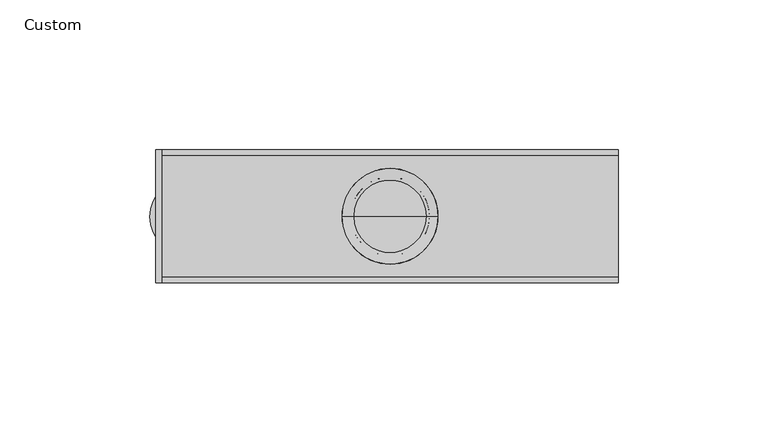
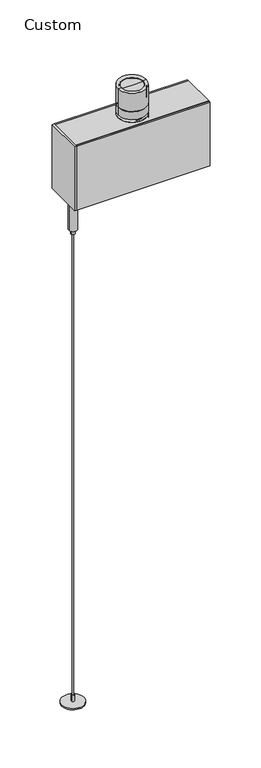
"""IFC4 building model written with IfcOpenShell, lengths in millimetres: light fixture geometry, Lighting-Pendant-Axis-Sculpt-Linear-Accent : Custom."""

from ifc_helpers import new_model, si_unit, point, frame, frame_2d, origin, origin_with_axes, place, context, project, spatial, polyline, circle_curve, ellipse_curve, trimmed, segment, composite_curve, outline, extrude, source, transform, mapped, element, save
from ifc_brep_helpers import plane_surface, cylinder_surface, revolved_surface, advanced_brep


def custom_45ceae2b(model_context):
    return source(origin(), model_context, "Body", "SolidModel", [
        advanced_brep(
        [(-12.1749998, 0.0, 720.9971034), (12.1749998, 0.0, 720.9971034), (15.9999994, 0.0, 721.52002), (-15.9999994, 0.0, 721.52002), (-12.1749998, 0.0, 720.2033534), (12.1749998, 0.0, 720.2033534), (-14.0, 0.0, 720.2033534), (14.0, 0.0, 720.2033534), (-14.0, 0.0, 705.9033531), (14.0, 0.0, 705.9033531), (-12.4999997, 0.0, 705.9033531), (12.4999997, 0.0, 705.9033531), (-12.4999997, 0.0, 707.5033531), (12.4999997, 0.0, 707.5033531), (0.0, 0.0, 707.5033531), (-15.9999994, 0.0, 689.9033527), (15.9999994, 0.0, 689.9033527), (0.0, 0.0, 689.9033527), (-15.9999994, 0.0, 698.9033533), (15.9999994, 0.0, 698.9033533), (-15.2062494, 0.0, 698.9033533), (15.2062494, 0.0, 698.9033533), (-15.2062494, 0.0, 699.6971033), (15.2062494, 0.0, 699.6971033), (-15.9999994, 0.0, 699.6971033), (15.9999994, 0.0, 699.6971033)],
        [
            (0, 1, circle_curve(frame((0.0, 0.0, 720.9971034), z_axis=(0.0, 0.0, -1.0), x_axis=(1.0, 0.0, 0.0)), 12.1749998)),
            (1, 2),
            (2, 3, circle_curve(frame((0.0, 0.0, 721.52002), z_axis=(0.0, 0.0, 1.0), x_axis=(1.0, 0.0, 0.0)), 15.9999994)),
            (3, 0),
            (1, 0, circle_curve(frame((0.0, 0.0, 720.9971034), z_axis=(0.0, 0.0, -1.0), x_axis=(1.0, 0.0, 0.0)), 12.1749998)),
            (3, 2, circle_curve(frame((0.0, 0.0, 721.52002), z_axis=(0.0, 0.0, 1.0), x_axis=(1.0, 0.0, 0.0)), 15.9999994)),
            (4, 5, circle_curve(frame((0.0, 0.0, 720.2033534), z_axis=(0.0, 0.0, -1.0), x_axis=(1.0, 0.0, 0.0)), 12.1749998)),
            (5, 1),
            (0, 4),
            (5, 4, circle_curve(frame((0.0, 0.0, 720.2033534), z_axis=(0.0, 0.0, -1.0), x_axis=(1.0, 0.0, 0.0)), 12.1749998)),
            (6, 7, circle_curve(frame((0.0, 0.0, 720.2033534), z_axis=(0.0, 0.0, -1.0), x_axis=(1.0, 0.0, 0.0)), 14.0)),
            (7, 5),
            (4, 6),
            (7, 6, circle_curve(frame((0.0, 0.0, 720.2033534), z_axis=(0.0, 0.0, -1.0), x_axis=(1.0, 0.0, 0.0)), 14.0)),
            (8, 9, circle_curve(frame((0.0, 0.0, 705.9033531), z_axis=(0.0, 0.0, -1.0), x_axis=(1.0, 0.0, 0.0)), 14.0)),
            (9, 7),
            (6, 8),
            (9, 8, circle_curve(frame((0.0, 0.0, 705.9033531), z_axis=(0.0, 0.0, -1.0), x_axis=(1.0, 0.0, 0.0)), 14.0)),
            (10, 11, circle_curve(frame((0.0, 0.0, 705.9033531), z_axis=(0.0, 0.0, -1.0), x_axis=(1.0, 0.0, 0.0)), 12.4999997)),
            (11, 9),
            (8, 10),
            (11, 10, circle_curve(frame((0.0, 0.0, 705.9033531), z_axis=(0.0, 0.0, -1.0), x_axis=(1.0, 0.0, 0.0)), 12.4999997)),
            (12, 13, circle_curve(frame((0.0, 0.0, 707.5033531), z_axis=(0.0, 0.0, -1.0), x_axis=(1.0, 0.0, 0.0)), 12.4999997)),
            (13, 11),
            (10, 12),
            (13, 12, circle_curve(frame((0.0, 0.0, 707.5033531), z_axis=(0.0, 0.0, -1.0), x_axis=(1.0, 0.0, 0.0)), 12.4999997)),
            (14, 13),
            (12, 14),
            (15, 16, circle_curve(frame((0.0, 0.0, 689.9033527), z_axis=(0.0, 0.0, -1.0), x_axis=(1.0, 0.0, 0.0)), 15.9999994)),
            (16, 17),
            (17, 15),
            (16, 15, circle_curve(frame((0.0, 0.0, 689.9033527), z_axis=(0.0, 0.0, -1.0), x_axis=(1.0, 0.0, 0.0)), 15.9999994)),
            (18, 19, circle_curve(frame((0.0, 0.0, 698.9033533), z_axis=(0.0, 0.0, -1.0), x_axis=(1.0, 0.0, 0.0)), 15.9999994)),
            (19, 16),
            (15, 18),
            (19, 18, circle_curve(frame((0.0, 0.0, 698.9033533), z_axis=(0.0, 0.0, -1.0), x_axis=(1.0, 0.0, 0.0)), 15.9999994)),
            (20, 21, circle_curve(frame((0.0, 0.0, 698.9033533), z_axis=(0.0, 0.0, -1.0), x_axis=(1.0, 0.0, 0.0)), 15.2062494)),
            (21, 19),
            (18, 20),
            (21, 20, circle_curve(frame((0.0, 0.0, 698.9033533), z_axis=(0.0, 0.0, -1.0), x_axis=(1.0, 0.0, 0.0)), 15.2062494)),
            (22, 23, circle_curve(frame((0.0, 0.0, 699.6971033), z_axis=(0.0, 0.0, -1.0), x_axis=(1.0, 0.0, 0.0)), 15.2062494)),
            (23, 21),
            (20, 22),
            (23, 22, circle_curve(frame((0.0, 0.0, 699.6971033), z_axis=(0.0, 0.0, -1.0), x_axis=(1.0, 0.0, 0.0)), 15.2062494)),
            (24, 25, circle_curve(frame((0.0, 0.0, 699.6971033), z_axis=(0.0, 0.0, -1.0), x_axis=(1.0, 0.0, 0.0)), 15.9999994)),
            (25, 23),
            (22, 24),
            (25, 24, circle_curve(frame((0.0, 0.0, 699.6971033), z_axis=(0.0, 0.0, -1.0), x_axis=(1.0, 0.0, 0.0)), 15.9999994)),
            (2, 25),
            (24, 3),
        ],
        [
            revolved_surface(polyline([(15.9999994, 0.0, 721.52002), (12.1749998, 0.0, 720.9971034)]), (0.0, 0.0, 2923.1350231), (0.0, 0.0, 1.0)),
            revolved_surface(polyline([(12.1749998, 0.0, 720.9971034), (12.1749998, 0.0, 720.2033533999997)]), (0.0, 0.0, 2923.1350231), (0.0, 0.0, 1.0)),
            plane_surface(frame((0.0, 0.0, 720.2033534), z_axis=(0.0, 0.0, -1.0), x_axis=(1.0, 0.0, 0.0))),
            revolved_surface(polyline([(14.0, 0.0, 720.2033533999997), (14.0, 0.0, 705.9033531)]), (0.0, 0.0, 2923.1350231), (0.0, 0.0, 1.0)),
            plane_surface(frame((0.0, 0.0, 705.9033531), z_axis=(0.0, 0.0, 1.0), x_axis=(1.0, 0.0, 0.0))),
            cylinder_surface(frame((0.0, 0.0, 2923.1350231), z_axis=(0.0, 0.0, 1.0), x_axis=(1.0, 0.0, 0.0)), 12.4999997),
            plane_surface(frame((0.0, 0.0, 707.5033531), z_axis=(0.0, 0.0, 1.0), x_axis=(1.0, 0.0, 0.0))),
            plane_surface(frame((0.0, 0.0, 689.9033527), z_axis=(0.0, 0.0, -1.0), x_axis=(1.0, 0.0, 0.0))),
            cylinder_surface(frame((0.0, 0.0, 2923.1350231), z_axis=(0.0, 0.0, 1.0), x_axis=(1.0, 0.0, 0.0)), 15.9999994),
            plane_surface(frame((0.0, 0.0, 698.9033533), z_axis=(0.0, 0.0, 1.0), x_axis=(1.0, 0.0, 0.0))),
            cylinder_surface(frame((0.0, 0.0, 2923.1350231), z_axis=(0.0, 0.0, 1.0), x_axis=(1.0, 0.0, 0.0)), 15.2062494),
            plane_surface(frame((0.0, 0.0, 699.6971033), z_axis=(0.0, 0.0, -1.0), x_axis=(1.0, 0.0, 0.0))),
        ],
        [
            (0, [[1, 2, 3, 4]]),
            (0, [[5, -4, 6, -2]]),
            (1, [[7, 8, -1, 9]]),
            (1, [[10, -9, -5, -8]]),
            (2, [[11, 12, -7, 13]]),
            (2, [[14, -13, -10, -12]]),
            (3, [[15, 16, -11, 17]]),
            (3, [[18, -17, -14, -16]]),
            (4, [[19, 20, -15, 21]]),
            (4, [[22, -21, -18, -20]]),
            (5, [[23, 24, -19, 25]]),
            (5, [[26, -25, -22, -24]]),
            (6, [[27, -23, 28]]),
            (6, [[-28, -26, -27]]),
            (7, [[29, 30, 31]]),
            (7, [[32, -31, -30]]),
            (8, [[33, 34, -29, 35]]),
            (8, [[36, -35, -32, -34]]),
            (9, [[37, 38, -33, 39]]),
            (9, [[40, -39, -36, -38]]),
            (10, [[41, 42, -37, 43]]),
            (10, [[44, -43, -40, -42]]),
            (11, [[45, 46, -41, 47]]),
            (11, [[48, -47, -44, -46]]),
            (8, [[-3, 49, -45, 50]]),
            (8, [[-6, -50, -48, -49]]),
        ],
    ),
        advanced_brep(
        [(-12.4525096, 0.0, 719.3533539), (12.4525096, 0.0, 719.3533539), (4.8863176, 0.0, 707.5033531), (-4.8863176, 0.0, 707.5033531), (-13.2500003, 0.0, 719.3533539), (13.2500003, 0.0, 719.3533539), (-13.2203172, 0.0, 720.2033534), (13.2203172, 0.0, 720.2033534), (0.0, 0.0, 720.2033534), (-3.7500001, 0.0, 713.5104959), (3.7500001, 0.0, 713.5104959), (0.0, 0.0, 711.9033531), (-3.959774, 0.0, 707.5033531), (3.959774, 0.0, 707.5033531)],
        [
            (0, 1, circle_curve(frame((0.0, 0.0, 719.3533539), z_axis=(0.0, 0.0, -1.0), x_axis=(1.0, 0.0, 0.0)), 12.4525096)),
            (1, 2, circle_curve(frame((-55.2491331, 0.0, 754.2401648), z_axis=(0.0, 1.0, 0.0), x_axis=(0.8889199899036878, 0.0, -0.4580624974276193)), 76.1616833)),
            (2, 3, circle_curve(frame((0.0, 0.0, 707.5033531), z_axis=(0.0, 0.0, 1.0), x_axis=(1.0, 0.0, 0.0)), 4.8863176)),
            (3, 0, circle_curve(frame((55.2491331, 0.0, 754.2401648), z_axis=(0.0, 1.0, 0.0), x_axis=(-0.8889199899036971, 0.0, -0.45806249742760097)), 76.1616833)),
            (1, 0, circle_curve(frame((0.0, 0.0, 719.3533539), z_axis=(0.0, 0.0, -1.0), x_axis=(1.0, 0.0, 0.0)), 12.4525096)),
            (3, 2, circle_curve(frame((0.0, 0.0, 707.5033531), z_axis=(0.0, 0.0, 1.0), x_axis=(1.0, 0.0, 0.0)), 4.8863176)),
            (4, 5, circle_curve(frame((0.0, 0.0, 719.3533539), z_axis=(0.0, 0.0, -1.0), x_axis=(1.0, 0.0, 0.0)), 13.2500003)),
            (5, 1),
            (0, 4),
            (5, 4, circle_curve(frame((0.0, 0.0, 719.3533539), z_axis=(0.0, 0.0, -1.0), x_axis=(1.0, 0.0, 0.0)), 13.2500003)),
            (6, 7, circle_curve(frame((0.0, 0.0, 720.2033534), z_axis=(0.0, 0.0, -1.0), x_axis=(1.0, 0.0, 0.0)), 13.2203172)),
            (7, 5),
            (4, 6),
            (7, 6, circle_curve(frame((0.0, 0.0, 720.2033534), z_axis=(0.0, 0.0, -1.0), x_axis=(1.0, 0.0, 0.0)), 13.2203172)),
            (8, 7),
            (6, 8),
            (9, 10, circle_curve(frame((0.0, 0.0, 713.5104959), z_axis=(0.0, 0.0, -1.0), x_axis=(1.0, 0.0, 0.0)), 3.7500001)),
            (10, 11, circle_curve(frame((0.0626217, 0.0, 716.9358075), z_axis=(0.0, 1.0, 0.0), x_axis=(0.732662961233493, 0.0, -0.6805916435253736)), 5.0328441)),
            (11, 9, circle_curve(frame((-0.0626217, 0.0, 716.9358075), z_axis=(0.0, 1.0, 0.0), x_axis=(-0.7326629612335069, 0.0, -0.6805916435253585)), 5.0328441)),
            (10, 9, circle_curve(frame((0.0, 0.0, 713.5104959), z_axis=(0.0, 0.0, -1.0), x_axis=(1.0, 0.0, 0.0)), 3.7500001)),
            (12, 13, circle_curve(frame((0.0, 0.0, 707.5033531), z_axis=(0.0, 0.0, -1.0), x_axis=(1.0, 0.0, 0.0)), 3.959774)),
            (13, 10),
            (9, 12),
            (13, 12, circle_curve(frame((0.0, 0.0, 707.5033531), z_axis=(0.0, 0.0, -1.0), x_axis=(1.0, 0.0, 0.0)), 3.959774)),
            (2, 13),
            (12, 3),
        ],
        [
            revolved_surface(trimmed(ellipse_curve(frame((-55.2491331, 0.0, 754.2401648), z_axis=(0.0, -1.0, 0.0), x_axis=(0.8889199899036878, 0.0, -0.4580624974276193)), 76.1616833, 76.1616833), [point((4.8863176, 0.0, 707.5033531))], [point((12.4525096, 0.0, 719.3533539))], True, "CARTESIAN"), (0.0, 0.0, 2923.1350231), (0.0, 0.0, 1.0)),
            plane_surface(frame((0.0, 0.0, 719.3533539), z_axis=(0.0, 0.0, -1.0), x_axis=(1.0, 0.0, 0.0))),
            revolved_surface(polyline([(13.2500003, 0.0, 719.3533539), (13.2203172, 0.0, 720.2033534)]), (0.0, 0.0, 2923.1350231), (0.0, 0.0, 1.0)),
            plane_surface(frame((0.0, 0.0, 720.2033534), z_axis=(0.0, 0.0, 1.0), x_axis=(1.0, 0.0, 0.0))),
            revolved_surface(trimmed(ellipse_curve(frame((0.0626217, 0.0, 716.9358075), z_axis=(0.0, -1.0, 0.0), x_axis=(0.732662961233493, 0.0, -0.6805916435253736)), 5.0328441, 5.0328441), [point((0.0, 0.0, 711.9033531))], [point((3.7500001, 0.0, 713.5104959))], True, "CARTESIAN"), (0.0, 0.0, 2923.1350231), (0.0, 0.0, 1.0)),
            revolved_surface(polyline([(3.7500001, 0.0, 713.5104959), (3.959774, 0.0, 707.5033531)]), (0.0, 0.0, 2923.1350231), (0.0, 0.0, 1.0)),
            plane_surface(frame((0.0, 0.0, 707.5033531), z_axis=(0.0, 0.0, -1.0), x_axis=(1.0, 0.0, 0.0))),
        ],
        [
            (0, [[1, 2, 3, 4]]),
            (0, [[5, -4, 6, -2]]),
            (1, [[7, 8, -1, 9]]),
            (1, [[10, -9, -5, -8]]),
            (2, [[11, 12, -7, 13]]),
            (2, [[14, -13, -10, -12]]),
            (3, [[15, -11, 16]]),
            (3, [[-16, -14, -15]]),
            (4, [[17, 18, 19]]),
            (4, [[20, -19, -18]]),
            (5, [[21, 22, -17, 23]]),
            (5, [[24, -23, -20, -22]]),
            (6, [[-3, 25, -21, 26]]),
            (6, [[-6, -26, -24, -25]]),
        ],
    ),
        extrude(outline(composite_curve([segment(trimmed(circle_curve(frame_2d((-9.525, 692.94502)), 3.9750181), [point((-13.5000181, 692.94502))], [point((-5.5499819, 692.94502))], False, "CARTESIAN"), True, "CONTINUOUS"), segment(polyline([(-5.5499819, 692.94502), (-5.5499819, 686.59502), (-13.5000181, 686.59502), (-13.5000181, 692.94502)]), True, "CONTINUOUS")], self_intersect=False)), frame((-2.9999793, 0.0, 0.0), z_axis=(1.0, 0.0, 0.0), x_axis=(0.0, 1.0, 0.0)), (0.0, 0.0, 1.0), 5.9999586),
        advanced_brep(
        [(0.0, 0.0, 648.4400175), (0.0, -10.1695708, 648.4400175), (0.0, 10.1695708, 648.4400175), (0.0, 15.9999994, 686.59502), (0.0, -15.9999994, 686.59502), (0.0, 0.0, 686.59502), (0.0, 15.9999994, 685.0950188), (0.0, -15.9999994, 685.0950188), (0.0, 10.1695708, 685.0950188), (0.0, -10.1695708, 685.0950188)],
        [
            (0, 1),
            (1, 2, circle_curve(frame((0.0, 0.0, 648.4400175), z_axis=(0.0, 0.0, -1.0), x_axis=(0.0, -1.0, 0.0)), 10.1695708)),
            (2, 0),
            (2, 1, circle_curve(frame((0.0, 0.0, 648.4400175), z_axis=(0.0, 0.0, -1.0), x_axis=(0.0, -1.0, 0.0)), 10.1695708)),
            (3, 4, circle_curve(frame((0.0, 0.0, 686.59502), z_axis=(0.0, 0.0, 1.0), x_axis=(0.0, -1.0, 0.0)), 15.9999994)),
            (4, 5),
            (5, 3),
            (4, 3, circle_curve(frame((0.0, 0.0, 686.59502), z_axis=(0.0, 0.0, 1.0), x_axis=(0.0, -1.0, 0.0)), 15.9999994)),
            (6, 7, circle_curve(frame((0.0, 0.0, 685.0950188), z_axis=(0.0, 0.0, 1.0), x_axis=(0.0, -1.0, 0.0)), 15.9999994)),
            (7, 4),
            (3, 6),
            (7, 6, circle_curve(frame((0.0, 0.0, 685.0950188), z_axis=(0.0, 0.0, 1.0), x_axis=(0.0, -1.0, 0.0)), 15.9999994)),
            (8, 9, circle_curve(frame((0.0, 0.0, 685.0950188), z_axis=(0.0, 0.0, 1.0), x_axis=(0.0, -1.0, 0.0)), 10.1695708)),
            (9, 7),
            (6, 8),
            (9, 8, circle_curve(frame((0.0, 0.0, 685.0950188), z_axis=(0.0, 0.0, 1.0), x_axis=(0.0, -1.0, 0.0)), 10.1695708)),
            (1, 9),
            (8, 2),
        ],
        [
            plane_surface(frame((0.0, 0.0, 648.4400175), z_axis=(0.0, 0.0, -1.0), x_axis=(0.0, -1.0, 0.0))),
            plane_surface(frame((0.0, 0.0, 686.59502), z_axis=(0.0, 0.0, 1.0), x_axis=(0.0, -1.0, 0.0))),
            cylinder_surface(frame((0.0, 0.0, 3036.7518143), z_axis=(0.0, 0.0, -1.0), x_axis=(0.0, -1.0, 0.0)), 15.9999994),
            plane_surface(frame((0.0, 0.0, 685.0950188), z_axis=(0.0, 0.0, -1.0), x_axis=(0.0, -1.0, 0.0))),
            cylinder_surface(frame((0.0, 0.0, 3036.7518143), z_axis=(0.0, 0.0, -1.0), x_axis=(0.0, -1.0, 0.0)), 10.1695708),
        ],
        [
            (0, [[1, 2, 3]]),
            (0, [[-3, 4, -1]]),
            (1, [[5, 6, 7]]),
            (1, [[8, -7, -6]]),
            (2, [[9, 10, -5, 11]]),
            (2, [[12, -11, -8, -10]]),
            (3, [[13, 14, -9, 15]]),
            (3, [[16, -15, -12, -14]]),
            (4, [[-2, 17, -13, 18]]),
            (4, [[-4, -18, -16, -17]]),
        ],
    ),
        advanced_brep(
        [(-72.1359999, 0.0, 604.4810805), (-62.9920001, 0.0, 604.4810805), (-62.9920001, 0.0, 570.5474987), (-72.1359999, 0.0, 570.5474987), (-75.4602633, 0.0, 609.6), (-59.6677367, 0.0, 609.6), (-69.8499999, 0.0, 565.4674991), (-65.2780001, 0.0, 565.4674991), (-67.564, 0.0, 565.4674991), (-69.8499999, 0.0, 570.5474987), (-65.2780001, 0.0, 570.5474987), (-75.4602633, 0.0, 618.0455013), (-59.6677367, 0.0, 618.0455013), (-67.564, 0.0, 618.0455013)],
        [
            (0, 1, circle_curve(frame((-67.564, 0.0, 604.4810805), z_axis=(0.0, 0.0, -1.0), x_axis=(1.0, 0.0, 0.0)), 4.5719999)),
            (1, 2),
            (2, 3, circle_curve(frame((-67.564, 0.0, 570.5474987), z_axis=(0.0, 0.0, 1.0), x_axis=(1.0, 0.0, 0.0)), 4.5719999)),
            (3, 0),
            (1, 0, circle_curve(frame((-67.564, 0.0, 604.4810805), z_axis=(0.0, 0.0, -1.0), x_axis=(1.0, 0.0, 0.0)), 4.5719999)),
            (3, 2, circle_curve(frame((-67.564, 0.0, 570.5474987), z_axis=(0.0, 0.0, 1.0), x_axis=(1.0, 0.0, 0.0)), 4.5719999)),
            (4, 5, circle_curve(frame((-67.564, 0.0, 609.6), z_axis=(0.0, 0.0, -1.0), x_axis=(1.0, 0.0, 0.0)), 7.8962633)),
            (5, 1),
            (0, 4),
            (5, 4, circle_curve(frame((-67.564, 0.0, 609.6), z_axis=(0.0, 0.0, -1.0), x_axis=(1.0, 0.0, 0.0)), 7.8962633)),
            (6, 7, circle_curve(frame((-67.564, 0.0, 565.4674991), z_axis=(0.0, 0.0, -1.0), x_axis=(1.0, 0.0, 0.0)), 2.2859999)),
            (7, 8),
            (8, 6),
            (7, 6, circle_curve(frame((-67.564, 0.0, 565.4674991), z_axis=(0.0, 0.0, -1.0), x_axis=(1.0, 0.0, 0.0)), 2.2859999)),
            (9, 10, circle_curve(frame((-67.564, 0.0, 570.5474987), z_axis=(0.0, 0.0, -1.0), x_axis=(1.0, 0.0, 0.0)), 2.2859999)),
            (10, 7),
            (6, 9),
            (10, 9, circle_curve(frame((-67.564, 0.0, 570.5474987), z_axis=(0.0, 0.0, -1.0), x_axis=(1.0, 0.0, 0.0)), 2.2859999)),
            (2, 10),
            (9, 3),
            (11, 12, circle_curve(frame((-67.564, 0.0, 618.0455013), z_axis=(0.0, 0.0, -1.0), x_axis=(1.0, 0.0, 0.0)), 7.8962633)),
            (12, 5),
            (4, 11),
            (12, 11, circle_curve(frame((-67.564, 0.0, 618.0455013), z_axis=(0.0, 0.0, -1.0), x_axis=(1.0, 0.0, 0.0)), 7.8962633)),
            (13, 12),
            (11, 13),
        ],
        [
            cylinder_surface(frame((-67.564, 0.0, 2761.4581012), z_axis=(0.0, 0.0, 1.0), x_axis=(1.0, 0.0, 0.0)), 4.5719999),
            revolved_surface(polyline([(-62.9920001, 0.0, 604.4810805), (-59.6677367, 0.0, 609.6)]), (-67.564, 0.0, 2761.4581012), (0.0, 0.0, 1.0)),
            plane_surface(frame((-67.564, 0.0, 565.4674991), z_axis=(0.0, 0.0, -1.0), x_axis=(1.0, 0.0, 0.0))),
            cylinder_surface(frame((-67.564, 0.0, 2761.4581012), z_axis=(0.0, 0.0, 1.0), x_axis=(1.0, 0.0, 0.0)), 2.2859999),
            plane_surface(frame((-67.564, 0.0, 570.5474987), z_axis=(0.0, 0.0, -1.0), x_axis=(1.0, 0.0, 0.0))),
            cylinder_surface(frame((-67.564, 0.0, 2761.4581012), z_axis=(0.0, 0.0, 1.0), x_axis=(1.0, 0.0, 0.0)), 7.8962633),
            plane_surface(frame((-67.564, 0.0, 618.0455013), z_axis=(0.0, 0.0, 1.0), x_axis=(1.0, 0.0, 0.0))),
        ],
        [
            (0, [[1, 2, 3, 4]]),
            (0, [[5, -4, 6, -2]]),
            (1, [[7, 8, -1, 9]]),
            (1, [[10, -9, -5, -8]]),
            (2, [[11, 12, 13]]),
            (2, [[14, -13, -12]]),
            (3, [[15, 16, -11, 17]]),
            (3, [[18, -17, -14, -16]]),
            (4, [[-3, 19, -15, 20]]),
            (4, [[-6, -20, -18, -19]]),
            (5, [[21, 22, -7, 23]]),
            (5, [[24, -23, -10, -22]]),
            (6, [[25, -21, 26]]),
            (6, [[-26, -24, -25]]),
        ],
    ),
        extrude(outline(composite_curve([segment(trimmed(circle_curve(frame_2d((-67.564, 0.0)), 0.79375), [point((-68.35775, 0.0))], [point((-66.77025, 0.0))], False, "CARTESIAN"), True, "CONTINUOUS"), segment(trimmed(circle_curve(frame_2d((-67.564, 0.0)), 0.79375), [point((-66.77025, 0.0))], [point((-68.35775, 0.0))], False, "CARTESIAN"), True, "CONTINUOUS")], self_intersect=False)), origin_with_axes(), (0.0, 0.0, 1.0), 565.4674991),
        extrude(outline(composite_curve([segment(trimmed(circle_curve(frame_2d((-67.564, 0.0)), 12.7), [point((-80.264, 0.0))], [point((-54.864, 0.0))], False, "CARTESIAN"), True, "CONTINUOUS"), segment(trimmed(circle_curve(frame_2d((-67.564, 0.0)), 12.7), [point((-54.864, 0.0))], [point((-80.264, 0.0))], False, "CARTESIAN"), True, "CONTINUOUS")], self_intersect=False)), origin_with_axes(), (0.0, 0.0, 1.0), 1.5875),
        extrude(outline(composite_curve([segment(trimmed(circle_curve(frame_2d((-67.564, 0.0)), 1.5875), [point((-69.1515, 0.0))], [point((-65.9765, 0.0))], False, "CARTESIAN"), True, "CONTINUOUS"), segment(trimmed(circle_curve(frame_2d((-67.564, 0.0)), 1.5875), [point((-65.9765, 0.0))], [point((-69.1515, 0.0))], False, "CARTESIAN"), True, "CONTINUOUS")], self_intersect=False)), frame((0.0, 0.0, 1.5875), z_axis=(0.0, 0.0, 1.0), x_axis=(1.0, 0.0, 0.0)), (0.0, 0.0, 1.0), 7.9375),
        extrude(outline(polyline([(-76.2, 22.225), (-76.2, -22.225), (-78.2955, -22.225), (-78.2955, 22.225), (-76.2, 22.225)])), frame((0.0, 0.0, 609.6), z_axis=(0.0, 0.0, 1.0), x_axis=(1.0, 0.0, 0.0)), (0.0, 0.0, 1.0), 76.99502),
        advanced_brep(
        [(76.2, -20.1929994, 686.59502), (76.2, -20.1929994, 624.1683301), (76.2, 20.1929368, 624.1683301), (76.2, 20.1929368, 686.59502), (-76.2, -20.1929994, 624.1683301), (-76.2, -20.1929994, 686.59502), (-76.2, 20.1929368, 686.59502), (-76.2, 20.1929368, 624.1683301), (15.99946, 0.0, 686.59502), (-15.99946, 0.0, 686.59502), (-15.99946, 0.0, 626.21414), (15.99946, 0.0, 626.21414)],
        [
            (0, 1),
            (1, 2),
            (2, 3),
            (3, 0),
            (4, 5),
            (5, 6),
            (6, 7),
            (7, 4),
            (0, 5),
            (4, 1),
            (7, 2),
            (6, 3),
            (8, 9, circle_curve(frame((0.0, 0.0, 686.59502), z_axis=(0.0, 0.0, -1.0), x_axis=(1.0, 0.0, 0.0)), 15.99946)),
            (9, 8, circle_curve(frame((0.0, 0.0, 686.59502), z_axis=(0.0, 0.0, -1.0), x_axis=(1.0, 0.0, 0.0)), 15.99946)),
            (10, 11, circle_curve(frame((0.0, 0.0, 626.21414), z_axis=(0.0, 0.0, 1.0), x_axis=(1.0, 0.0, 0.0)), 15.99946)),
            (11, 10, circle_curve(frame((0.0, 0.0, 626.21414), z_axis=(0.0, 0.0, 1.0), x_axis=(1.0, 0.0, 0.0)), 15.99946)),
            (10, 9),
            (8, 11),
        ],
        [
            plane_surface(frame((76.2, -20.1929994, 686.59502), z_axis=(1.0, 0.0, 0.0), x_axis=(0.0, 0.0, -1.0))),
            plane_surface(frame((-76.2, -20.1929994, 686.59502), z_axis=(-1.0, 0.0, 0.0), x_axis=(0.0, 0.0, 1.0))),
            plane_surface(frame((76.2, -20.1929994, 686.59502), z_axis=(0.0, -1.0, 0.0), x_axis=(-1.0, 0.0, 0.0))),
            plane_surface(frame((76.2, -20.1929994, 624.1683301), z_axis=(0.0, 0.0, -1.0), x_axis=(-1.0, 0.0, 0.0))),
            plane_surface(frame((76.2, 20.1929368, 624.1683301), z_axis=(0.0, 1.0, 0.0), x_axis=(-1.0, 0.0, 0.0))),
            plane_surface(frame((76.2, 20.1929368, 686.59502), z_axis=(0.0, 0.0, 1.0), x_axis=(-1.0, 0.0, 0.0))),
            plane_surface(frame((15.99946, 0.0, 626.21414), z_axis=(0.0, 0.0, 1.0), x_axis=(0.0, -1.0, 0.0))),
            revolved_surface(polyline([(15.99946, 0.0, 686.59502), (15.99946, 0.0, 626.21414)]), (0.0, 0.0, 626.21414), (0.0, 0.0, 1.0)),
        ],
        [
            (0, [[1, 2, 3, 4]]),
            (1, [[5, 6, 7, 8]]),
            (2, [[-1, 9, -5, 10]]),
            (3, [[-2, -10, -8, 11]]),
            (4, [[-3, -11, -7, 12]]),
            (5, [[-4, -12, -6, -9], [13, 14]]),
            (6, [[15, 16]]),
            (7, [[-15, 17, -13, 18]]),
            (7, [[-16, -18, -14, -17]]),
        ],
    ),
        extrude(outline(polyline([(76.2, 20.1929994), (76.2, -20.1929994), (-76.2, -20.1929994), (-76.2, 20.1929994), (76.2, 20.1929994)])), frame((0.0, 0.0, 618.0455013), z_axis=(0.0, 0.0, 1.0), x_axis=(1.0, 0.0, 0.0)), (0.0, 0.0, 1.0), 2.0319968),
        extrude(outline(polyline([(76.2, -20.1929994), (76.2, -22.225), (-76.2, -22.225), (-76.2, -20.1929994), (76.2, -20.1929994)])), frame((0.0, 0.0, 609.6), z_axis=(0.0, 0.0, 1.0), x_axis=(1.0, 0.0, 0.0)), (0.0, 0.0, 1.0), 76.99502),
        extrude(outline(polyline([(76.2, 22.225), (76.2, 20.1929994), (-76.2, 20.1929994), (-76.2, 22.225), (76.2, 22.225)])), frame((0.0, 0.0, 609.6), z_axis=(0.0, 0.0, 1.0), x_axis=(1.0, 0.0, 0.0)), (0.0, 0.0, 1.0), 76.99502),
    ])


if __name__ == "__main__":
    model = new_model("IFC4")
    model_context = context("Model", 3, world=origin())
    ifc_project = project(units=[si_unit("LENGTHUNIT", "METRE", prefix="MILLI")], contexts=[model_context])
    site = spatial("IfcSite", under=ifc_project)
    building = spatial("IfcBuilding", under=site)
    placement = place(None, origin())
    custom_shape = custom_45ceae2b(model_context)
    element("IfcLightFixture", 1, ObjectType="Lighting-Pendant-Axis-Sculpt-Linear-Accent : Custom", at=placement, inside=building, context=model_context, shape_type="MappedRepresentation", body=[
        mapped(custom_shape, transform((0.0, 0.0, 0.0), x_axis=(1.0, 0.0, 0.0), y_axis=(0.0, 1.0, 0.0), z_axis=(0.0, 0.0, 1.0))),
    ])
    save(model, "model.ifc")
